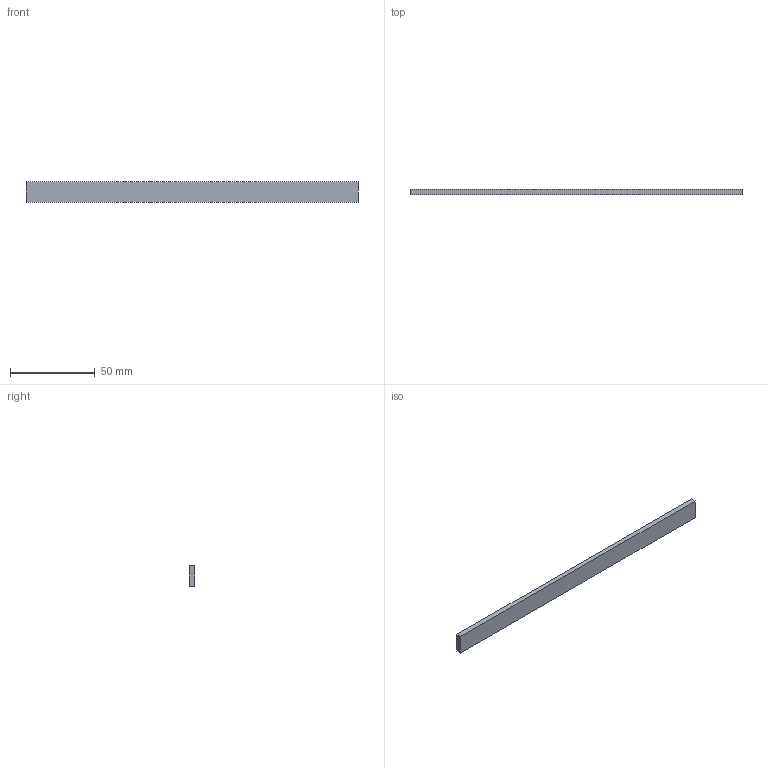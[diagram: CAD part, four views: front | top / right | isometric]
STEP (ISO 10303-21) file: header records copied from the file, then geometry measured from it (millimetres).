
FILE_DESCRIPTION(('Open CASCADE Model'),'2;1');
FILE_NAME('Open CASCADE Shape Model','2026-10-04T01:02:33',('Author'),( 'Open CASCADE'),'Open CASCADE STEP processor 8.0','Open CASCADE 8.0' ,'Unknown');
FILE_SCHEMA(('AUTOMOTIVE_DESIGN { 1 0 10303 214 1 1 1 1 }'));
Length unit declared in the file: millimetre
Products named in the file (1): Open CASCADE STEP translator 8.0 305
Bounding box: 196 x 3 x 12 mm (x, y, z)
Volume: 7056 mm3; surface area: 5952 mm2
Topology: 1 solids, 1 shells, 6 faces, 12 edges, 8 vertices
Faces by surface type: plane 6
Entity records: 322 total; most frequent: CARTESIAN_POINT 51, DIRECTION 50, LINE 36, VECTOR 36, ORIENTED_EDGE 24, PCURVE 24, DEFINITIONAL_REPRESENTATION 24, EDGE_CURVE 12
